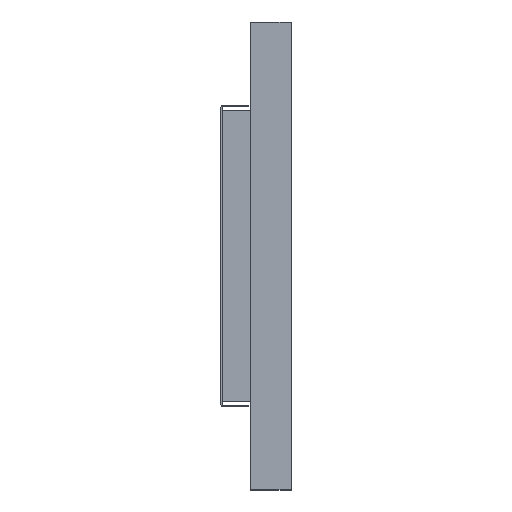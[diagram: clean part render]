
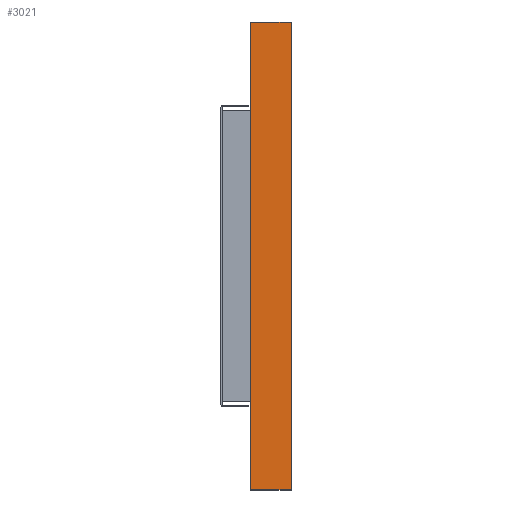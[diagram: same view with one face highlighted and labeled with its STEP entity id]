
A CAD part, left-side view. The second image highlights one B-rep face of the part: STEP entity #3021.
In plain terms, the highlighted planar face has unit normal (-1, 0, 0).
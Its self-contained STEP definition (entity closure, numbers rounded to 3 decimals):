
#9 = LINE ( 'NONE', #924, #3941 ) ;
#21 = PLANE ( 'NONE',  #4210 ) ;
#59 = VECTOR ( 'NONE', #3530, 1000. ) ;
#228 = CARTESIAN_POINT ( 'NONE',  ( -258.592, -12.233, 36. ) ) ;
#325 = FACE_OUTER_BOUND ( 'NONE', #3389, .T. ) ;
#678 = EDGE_CURVE ( 'NONE', #1515, #1878, #905, .T. ) ;
#905 = LINE ( 'NONE', #2227, #59 ) ;
#924 = CARTESIAN_POINT ( 'NONE',  ( -258.592, -12.233, -22. ) ) ;
#1453 = VECTOR ( 'NONE', #3133, 1000. ) ;
#1478 = CARTESIAN_POINT ( 'NONE',  ( -258.592, -7.233, 36. ) ) ;
#1515 = VERTEX_POINT ( 'NONE', #3700 ) ;
#1718 = DIRECTION ( 'NONE',  ( 0., 0., 1. ) ) ;
#1878 = VERTEX_POINT ( 'NONE', #3660 ) ;
#1969 = DIRECTION ( 'NONE',  ( 1., 0., 0. ) ) ;
#2220 = VERTEX_POINT ( 'NONE', #228 ) ;
#2227 = CARTESIAN_POINT ( 'NONE',  ( -258.592, -7.233, -22. ) ) ;
#2241 = DIRECTION ( 'NONE',  ( 0., 0., 1. ) ) ;
#2432 = CARTESIAN_POINT ( 'NONE',  ( -258.592, -7.233, -22. ) ) ;
#2467 = LINE ( 'NONE', #4144, #1453 ) ;
#2541 = VERTEX_POINT ( 'NONE', #1478 ) ;
#2572 = EDGE_CURVE ( 'NONE', #2541, #2220, #2467, .T. ) ;
#2696 = LINE ( 'NONE', #2432, #3592 ) ;
#2966 = ORIENTED_EDGE ( 'NONE', *, *, #3620, .F. ) ;
#3021 = ADVANCED_FACE ( 'NONE', ( #325 ), #21, .F. ) ;
#3024 = ORIENTED_EDGE ( 'NONE', *, *, #678, .T. ) ;
#3133 = DIRECTION ( 'NONE',  ( 0., -1., 0. ) ) ;
#3274 = ORIENTED_EDGE ( 'NONE', *, *, #2572, .F. ) ;
#3389 = EDGE_LOOP ( 'NONE', ( #3407, #3274, #2966, #3024 ) ) ;
#3407 = ORIENTED_EDGE ( 'NONE', *, *, #3773, .T. ) ;
#3530 = DIRECTION ( 'NONE',  ( 0., -1., 0. ) ) ;
#3592 = VECTOR ( 'NONE', #1718, 1000. ) ;
#3619 = CARTESIAN_POINT ( 'NONE',  ( -258.592, -7.233, -22. ) ) ;
#3620 = EDGE_CURVE ( 'NONE', #1515, #2541, #2696, .T. ) ;
#3660 = CARTESIAN_POINT ( 'NONE',  ( -258.592, -12.233, -22. ) ) ;
#3700 = CARTESIAN_POINT ( 'NONE',  ( -258.592, -7.233, -22. ) ) ;
#3773 = EDGE_CURVE ( 'NONE', #1878, #2220, #9, .T. ) ;
#3941 = VECTOR ( 'NONE', #2241, 1000. ) ;
#4144 = CARTESIAN_POINT ( 'NONE',  ( -258.592, -7.233, 36. ) ) ;
#4210 = AXIS2_PLACEMENT_3D ( 'NONE', #3619, #1969, #4266 ) ;
#4266 = DIRECTION ( 'NONE',  ( 0., 0., -1. ) ) ;
